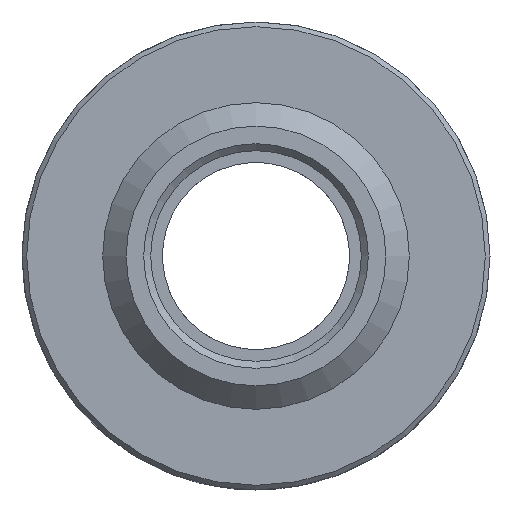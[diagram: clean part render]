
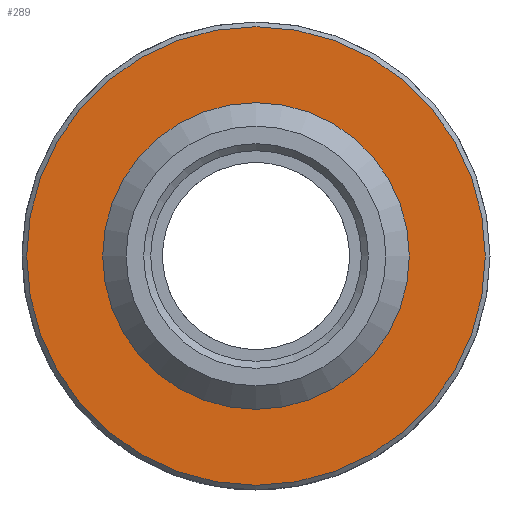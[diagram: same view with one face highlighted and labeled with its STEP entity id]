
A CAD part, front view. The second image highlights one B-rep face of the part: STEP entity #289.
In plain terms, the highlighted planar face has unit normal (0, -1, 0).
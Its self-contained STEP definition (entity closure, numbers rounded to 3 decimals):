
#52=FACE_BOUND('',#81,.T.);
#61=FACE_OUTER_BOUND('',#80,.T.);
#80=EDGE_LOOP('',(#212));
#81=EDGE_LOOP('',(#213,#214));
#99=CIRCLE('',#328,5.75);
#100=CIRCLE('',#329,5.75);
#108=CIRCLE('',#341,9.8);
#125=VERTEX_POINT('',#477);
#126=VERTEX_POINT('',#478);
#134=VERTEX_POINT('',#503);
#151=EDGE_CURVE('',#125,#126,#99,.T.);
#152=EDGE_CURVE('',#126,#125,#100,.T.);
#164=EDGE_CURVE('',#134,#134,#108,.T.);
#212=ORIENTED_EDGE('',*,*,#164,.F.);
#213=ORIENTED_EDGE('',*,*,#151,.T.);
#214=ORIENTED_EDGE('',*,*,#152,.T.);
#262=PLANE('',#340);
#289=ADVANCED_FACE('',(#61,#52),#262,.T.);
#328=AXIS2_PLACEMENT_3D('',#479,#381,#382);
#329=AXIS2_PLACEMENT_3D('',#480,#383,#384);
#340=AXIS2_PLACEMENT_3D('',#502,#409,#410);
#341=AXIS2_PLACEMENT_3D('',#504,#411,#412);
#381=DIRECTION('center_axis',(0.,1.,0.));
#382=DIRECTION('ref_axis',(1.,0.,0.));
#383=DIRECTION('center_axis',(0.,1.,0.));
#384=DIRECTION('ref_axis',(1.,0.,0.));
#409=DIRECTION('center_axis',(0.,-1.,0.));
#410=DIRECTION('ref_axis',(0.,0.,-1.));
#411=DIRECTION('center_axis',(0.,1.,0.));
#412=DIRECTION('ref_axis',(1.,0.,0.));
#477=CARTESIAN_POINT('',(-5.75,8.,0.));
#478=CARTESIAN_POINT('',(5.75,8.,0.));
#479=CARTESIAN_POINT('Origin',(0.,8.,0.));
#480=CARTESIAN_POINT('Origin',(0.,8.,0.));
#502=CARTESIAN_POINT('Origin',(-10.,8.,0.));
#503=CARTESIAN_POINT('',(-9.8,8.,0.));
#504=CARTESIAN_POINT('Origin',(0.,8.,0.));
